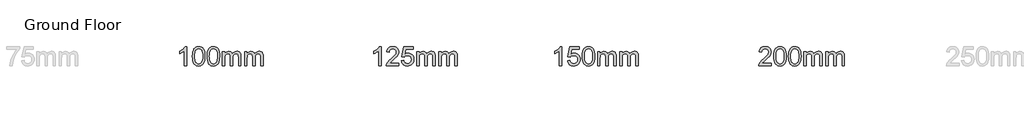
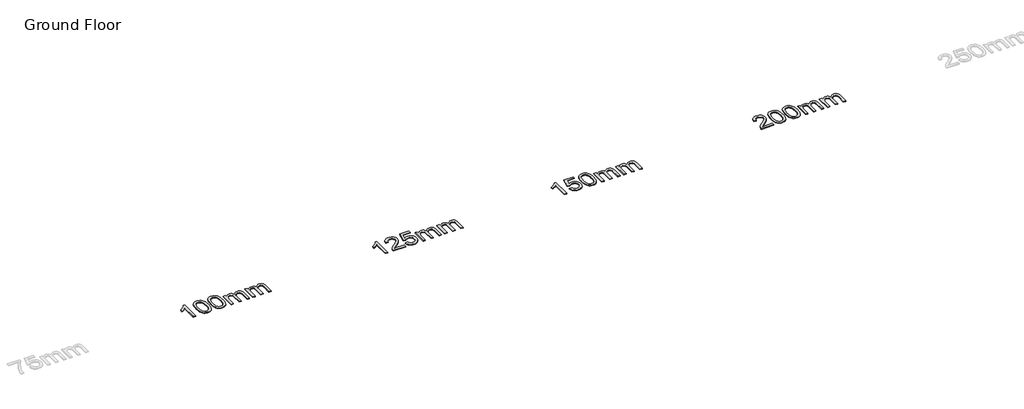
# One storey, part 2 of 3: 4 proxies.
"""IFC4 building model written with IfcOpenShell, lengths in millimetres."""

import ifcopenshell
import ifcopenshell.guid

model = None  # the IFC model being written
_history = None  # IfcOwnerHistory: only IFC2X3 demands one
_inside = {}  # id of a spatial element -> (the spatial element, [elements in it])
_under = {}  # id of a project, library or spatial element -> (it, [spatial elements below it])
_declared = {}  # id of a project -> (the project, [libraries it declares])
_typed = {}  # id of a type object -> (the type object, [elements of that type])
_made_of = {}  # id of a material, layer set ... -> (it, [elements and type objects made of it])


def new_model(schema):
    """Start an empty IFC model of exactly this schema.

    Asked for "IFC4X3", IfcOpenShell would pick the latest addendum, in which some entities
    have other attributes; the version numbers below select the first issue.
    IFC2X3 requires an IfcOwnerHistory on every rooted entity: one is made here for all.
    """
    global model, _history
    if schema == "IFC4X3":
        model = ifcopenshell.file(schema_version=(4, 3, 0, 0))
    else:
        model = ifcopenshell.file(schema=schema)
    _inside.clear()
    _under.clear()
    _declared.clear()
    _typed.clear()
    _made_of.clear()
    _history = None
    if model.schema == "IFC2X3":
        org = make("IfcOrganization", Name="unknown")
        user = make(
            "IfcPersonAndOrganization",
            ThePerson=make("IfcPerson", FamilyName="unknown"),
            TheOrganization=org,
        )
        app = make(
            "IfcApplication",
            ApplicationDeveloper=org,
            Version="unknown",
            ApplicationFullName="unknown",
            ApplicationIdentifier="unknown",
        )
        _history = make(
            "IfcOwnerHistory",
            OwningUser=user,
            OwningApplication=app,
            ChangeAction="ADDED",
            CreationDate=0,
        )
    return model


def make(cls, **values):
    """One entity of the class cls with the attributes given. An attribute that is None is left unset."""
    return model.create_entity(
        cls, **{name: value for name, value in values.items() if value is not None}
    )


def rooted(cls, **values):
    """An entity with a GlobalId (a new one), such as an element, a storey or a relation."""
    return make(cls, GlobalId=ifcopenshell.guid.new(), OwnerHistory=_history, **values)


def si_unit(unit_type, name, prefix=None):
    """IfcSIUnit, for example si_unit("LENGTHUNIT", "METRE", prefix="MILLI")."""
    return make("IfcSIUnit", UnitType=unit_type, Prefix=prefix, Name=name)


def assignment(units):
    """IfcUnitAssignment: the units of a project."""
    return None if units is None else make("IfcUnitAssignment", Units=units)


def point(xyz):
    """IfcCartesianPoint."""
    return None if xyz is None else make("IfcCartesianPoint", Coordinates=xyz)


def direction(xyz):
    """IfcDirection."""
    return None if xyz is None else make("IfcDirection", DirectionRatios=xyz)


def frame(location, z_axis=None, x_axis=None):
    """IfcAxis2Placement3D, a coordinate frame: its origin and axes. An axis left out is left unset."""
    return make(
        "IfcAxis2Placement3D",
        Location=point(location),
        Axis=direction(z_axis),
        RefDirection=direction(x_axis),
    )


def origin():
    """The frame at (0, 0, 0) with its axes left unset."""
    return frame((0.0, 0.0, 0.0))


def origin_with_axes():
    """The frame at (0, 0, 0) with the z axis (0, 0, 1) and the x axis (1, 0, 0) written out."""
    return frame((0.0, 0.0, 0.0), z_axis=(0.0, 0.0, 1.0), x_axis=(1.0, 0.0, 0.0))


def place(relative_to, where):
    """IfcLocalPlacement: puts the frame where relative to a parent placement (None: the world)."""
    return make(
        "IfcLocalPlacement", PlacementRelTo=relative_to, RelativePlacement=where
    )


def context(
    kind, dimensions, precision=None, world=None, true_north=None, identifier=None
):
    """IfcGeometricRepresentationContext, for example the 3D "Model" context."""
    return make(
        "IfcGeometricRepresentationContext",
        ContextIdentifier=identifier,
        ContextType=kind,
        CoordinateSpaceDimension=dimensions,
        Precision=precision,
        WorldCoordinateSystem=world,
        TrueNorth=true_north,
    )


def project(units=None, contexts=None):
    """IfcProject with its units and contexts."""
    return rooted(
        "IfcProject",
        Name="project",
        RepresentationContexts=contexts,
        UnitsInContext=assignment(units),
    )


def spatial(cls, under=None, at=None, **own):
    """A site, building, storey or space (cls), placed at a placement, below another one or the project."""
    s = rooted(cls, ObjectPlacement=at, **own)
    if under is not None:
        _under.setdefault(under.id(), (under, []))[1].append(s)
    return s


def polyline(points):
    """IfcPolyline through the points."""
    return make("IfcPolyline", Points=[point(p) for p in points])


def outline(outer, holes=None, kind="AREA"):
    """IfcArbitraryClosedProfileDef: a profile drawn as a closed curve; with holes, ...WithVoids."""
    if holes is None:
        return make("IfcArbitraryClosedProfileDef", ProfileType=kind, OuterCurve=outer)
    return make(
        "IfcArbitraryProfileDefWithVoids",
        ProfileType=kind,
        OuterCurve=outer,
        InnerCurves=holes,
    )


def extrude(swept, where, along, depth):
    """IfcExtrudedAreaSolid: the profile swept, set in the frame where, extruded along a direction by depth."""
    return make(
        "IfcExtrudedAreaSolid",
        SweptArea=swept,
        Position=where,
        ExtrudedDirection=direction(along),
        Depth=depth,
    )


def shape(context_of_items, identifier, shape_type, items):
    """IfcShapeRepresentation: the items that make up one representation, for example the "Body"."""
    return make(
        "IfcShapeRepresentation",
        ContextOfItems=context_of_items,
        RepresentationIdentifier=identifier,
        RepresentationType=shape_type,
        Items=items,
    )


def made_of(thing, what):
    """Note that an element or type object is made of a material, layer set ...; save() writes the relation."""
    if what is not None:
        _made_of.setdefault(what.id(), (what, []))[1].append(thing)
    return thing


def element(
    cls,
    number,
    at=None,
    inside=None,
    cuts=None,
    type_object=None,
    material=None,
    context=None,
    identifier="Body",
    shape_type=None,
    held_by="IfcProductDefinitionShape",
    body=None,
    shapes=None,
    **own,
):
    """One element of the class cls, such as IfcWall. Its Tag is "e" and its number.

    at: its placement. inside: the storey or other place that contains it. cuts: it is an
    opening in that element (IfcRelVoidsElement). A single representation is given by context,
    identifier, shape_type and body (its items); several are given by shapes. held_by: the class
    of the entity that holds the representations. save() writes the other relations.
    """
    e = rooted(cls, Tag="e%d" % number, ObjectPlacement=at, **own)
    if body is not None:
        shapes = [shape(context, identifier, shape_type, body)]
    if shapes is not None:
        e.Representation = make(held_by, Representations=shapes)
    if inside is not None:
        _inside.setdefault(inside.id(), (inside, []))[1].append(e)
    if cuts is not None:
        rooted(
            "IfcRelVoidsElement", RelatingBuildingElement=cuts, RelatedOpeningElement=e
        )
    if type_object is not None:
        _typed.setdefault(type_object.id(), (type_object, []))[1].append(e)
    return made_of(e, material)


def aggregate(whole, parts):
    """IfcRelAggregates: a whole, such as a stair, and the parts it consists of."""
    return rooted("IfcRelAggregates", RelatingObject=whole, RelatedObjects=parts)


def save(model, path):
    """Write the relations noted so far, then the file.

    IfcRelAggregates (storeys below a building ...), IfcRelContainedInSpatialStructure (elements
    in a storey), IfcRelDefinesByType, IfcRelAssociatesMaterial and IfcRelDeclares: one each for
    every whole, place, type object, material and project.
    """
    for whole, parts in _under.values():
        aggregate(whole, parts)
    for where, things in _inside.values():
        rooted(
            "IfcRelContainedInSpatialStructure",
            RelatedElements=things,
            RelatingStructure=where,
        )
    for kind, things in _typed.values():
        rooted("IfcRelDefinesByType", RelatedObjects=things, RelatingType=kind)
    for what, things in _made_of.values():
        rooted("IfcRelAssociatesMaterial", RelatedObjects=things, RelatingMaterial=what)
    for by, libraries in _declared.values():
        rooted("IfcRelDeclares", RelatingContext=by, RelatedDefinitions=libraries)
    model.write(path)


model = new_model("IFC4")

# Units and contexts
model_context = context("Model", 3, world=origin())
ifc_project = project(units=[si_unit("LENGTHUNIT", "METRE", prefix="MILLI")], contexts=[model_context])

# Site, building, storey
site = spatial("IfcSite", under=ifc_project)
building = spatial("IfcBuilding", under=site)
storey = spatial("IfcBuildingStorey", under=building, Name="Ground Floor", Elevation=0.0)

# Proxies
placement = place(None, origin())
element("IfcBuildingElementProxy", 1, Name="600mm Arial", ObjectType="600mm Arial", at=placement, inside=storey, context=model_context, shape_type="SweptSolid", body=[
    extrude(outline(polyline([(9514.4488498, -2485.58737), (9439.1066172, -2485.58737), (9439.1066172, -2015.8756386), (9407.6527066, -2041.3146785), (9367.7375101, -2066.7169303), (9325.8357509, -2088.9186087), (9288.422152, -2104.7559286), (9288.422152, -2033.5339743), (9347.5959709, -2001.3442998), (9398.8603269, -1963.0477841), (9439.2721641, -1922.3232472), (9465.8884265, -1882.8495091), (9514.4488498, -1882.8495091), (9514.4488498, -2485.58737)])), origin_with_axes(), (0.0, 0.0, 1.0), 20.0),
    extrude(outline(polyline([(10079.5155944, -2410.2451374), (10079.5155944, -2485.58737), (9683.9688732, -2485.58737), (9685.6243422, -2459.0630782), (9692.0622771, -2433.6424323), (9710.6403178, -2393.0466541), (9737.8267973, -2353.6648865), (9777.1533826, -2312.443709), (9832.1517409, -2266.3297009), (9913.4536618, -2194.1144652), (9962.2348144, -2140.8083641), (9976.4626505, -2119.02975), (9986.6253906, -2097.5454415), (9992.7230347, -2076.3554386), (9994.7555827, -2055.4597412), (9992.8379978, -2035.8010471), (9987.0852431, -2017.7334426), (9977.4973186, -2001.2569278), (9964.0742243, -1986.3715026), (9947.5609213, -1974.0428572), (9928.7023705, -1965.2366819), (9907.498572, -1959.9529768), (9883.9495258, -1958.1917417), (9859.1404837, -1959.9115901), (9836.9526009, -1965.071135), (9817.3858773, -1973.6703767), (9800.4403129, -1985.709315), (9786.73211, -2000.7832797), (9776.8774711, -2018.4876007), (9770.876396, -2038.822278), (9768.7288849, -2061.7873116), (9693.3866523, -2052.3695325), (9699.8659739, -2013.4752085), (9711.6519933, -1979.4921092), (9728.7447105, -1950.4202346), (9751.1441255, -1926.2595845), (9778.3352035, -1907.2676765), (9809.8029096, -1893.702028), (9845.547244, -1885.5626388), (9885.5682066, -1882.8495091), (9925.9478541, -1885.8661415), (9961.8853265, -1894.9160386), (9993.3806238, -1909.9992004), (10020.433746, -1931.1156269), (10042.1617763, -1956.7018196), (10057.681798, -1985.1942802), (10066.993811, -2016.5930085), (10070.0978153, -2050.8980045), (10066.7500892, -2086.9320459), (10056.7069107, -2122.340688), (10038.883028, -2158.3563353), (10012.1931893, -2196.2113926), (9969.6476366, -2241.4056957), (9904.2566119, -2299.4390805), (9817.5836138, -2371.9118335), (9783.5913175, -2410.2451374), (10079.5155944, -2410.2451374)])), origin_with_axes(), (0.0, 0.0, 1.0), 20.0),
    extrude(outline(polyline([(10154.857827, -2325.4851257), (10230.2000596, -2316.0673466), (10235.8286542, -2340.2877775), (10244.0324227, -2361.2984379), (10254.8113651, -2379.099328), (10268.1654815, -2393.6904476), (10284.0671808, -2405.0534027), (10302.4888717, -2413.1697993), (10323.4305543, -2418.0396372), (10346.8922285, -2419.6629165), (10375.5870241, -2417.4050407), (10400.8973054, -2410.6314135), (10422.8230723, -2399.3420348), (10441.3643249, -2383.5369045), (10456.1071958, -2363.9977721), (10466.6378179, -2341.5063866), (10472.9561912, -2316.0627481), (10475.0623156, -2287.6668566), (10473.0895484, -2260.8298651), (10467.1712468, -2236.9727177), (10457.3074108, -2216.0954144), (10443.4980404, -2198.1979554), (10425.6971504, -2183.8413605), (10403.8587555, -2173.5866499), (10377.9828556, -2167.4338235), (10348.0694509, -2165.3828814), (10311.5203747, -2168.6570312), (10281.9242682, -2178.4794804), (10258.28785, -2193.525854), (10239.6178387, -2212.4717768), (10164.2756061, -2203.0539977), (10230.2000596, -1892.2672882), (10522.151211, -1892.2672882), (10522.151211, -1967.6095208), (10291.121318, -1967.6095208), (10258.8948553, -2133.597877), (10285.4835265, -2114.5415897), (10312.7159912, -2100.9299559), (10340.5922493, -2092.7629756), (10369.112301, -2090.0406488), (10405.8039315, -2093.4159661), (10439.5065208, -2103.541918), (10470.2200689, -2120.4185045), (10497.9445757, -2144.0457257), (10520.8958137, -2172.9796446), (10537.2895551, -2205.7763245), (10547.1258, -2242.4357653), (10550.4045482, -2282.9579671), (10547.4522952, -2321.9902468), (10538.5955362, -2358.3001997), (10523.8342711, -2391.8878258), (10503.1685001, -2422.7531252), (10471.8617423, -2454.3633857), (10435.3310601, -2476.9421431), (10393.5764537, -2490.4893976), (10346.5979229, -2495.0051491), (10307.7173945, -2492.1034798), (10272.5984596, -2483.3984721), (10241.241118, -2468.890126), (10213.6453699, -2448.5784413), (10190.6849348, -2423.4750936), (10173.2335327, -2394.5917585), (10161.2911634, -2361.9284359), (10154.857827, -2325.4851257)])), origin_with_axes(), (0.0, 0.0, 1.0), 20.0),
    extrude(outline(polyline([(10635.1645599, -2485.58737), (10635.1645599, -2042.9517534), (10710.5067925, -2042.9517534), (10710.5067925, -2115.7923885), (10733.1683234, -2082.333521), (10762.3045775, -2056.1219288), (10796.9222732, -2039.180963), (10836.0281293, -2033.5339743), (10877.9298885, -2039.2913276), (10895.7629683, -2046.4880191), (10911.5175147, -2056.5633872), (10936.6070668, -2084.2097192), (10953.0146038, -2121.0898892), (10980.4769947, -2082.7841764), (11011.8021466, -2055.422953), (11046.9900594, -2039.006219), (11086.0407332, -2033.5339743), (11116.2024583, -2035.8102442), (11142.6761664, -2042.6390537), (11165.4618575, -2054.0204029), (11184.5595315, -2069.9542919), (11199.6564889, -2090.6246615), (11210.4400299, -2116.2154528), (11216.9101545, -2146.7266657), (11219.0668627, -2182.1583004), (11219.0668627, -2485.58737), (11143.7246301, -2485.58737), (11143.7246301, -2214.531916), (11141.9771906, -2176.9527702), (11136.7348722, -2151.6240948), (11126.9124229, -2134.2784587), (11111.4245909, -2120.6484308), (11091.5037808, -2111.8192629), (11068.3823974, -2108.8762069), (11047.0314462, -2110.7616022), (11027.5658901, -2116.4177879), (11009.9857292, -2125.844764), (10994.2909636, -2139.0425306), (10981.3829041, -2156.3973637), (10972.1628616, -2178.2955394), (10966.6308361, -2204.7370578), (10964.7868276, -2235.7219189), (10964.7868276, -2485.58737), (10889.444595, -2485.58737), (10889.444595, -2206.1442065), (10885.0851934, -2163.5434714), (10879.6359413, -2146.8232348), (10872.0069884, -2133.1564186), (10861.8948321, -2122.533826), (10848.9959696, -2114.9462599), (10833.3104011, -2110.3937202), (10814.8381264, -2108.8762069), (10785.812237, -2112.9229089), (10759.0672159, -2125.0630147), (10736.9942962, -2145.0022189), (10721.9847108, -2172.4462157), (10713.3762721, -2210.5220022), (10710.5067925, -2262.3565753), (10710.5067925, -2485.58737), (10635.1645599, -2485.58737)])), origin_with_axes(), (0.0, 0.0, 1.0), 20.0),
    extrude(outline(polyline([(11332.0802116, -2485.58737), (11332.0802116, -2042.9517534), (11407.4224442, -2042.9517534), (11407.4224442, -2115.7923885), (11430.0839751, -2082.333521), (11459.2202291, -2056.1219288), (11493.8379249, -2039.180963), (11532.943781, -2033.5339743), (11574.8455402, -2039.2913276), (11592.6786199, -2046.4880191), (11608.4331664, -2056.5633872), (11633.5227184, -2084.2097192), (11649.9302554, -2121.0898892), (11677.3926464, -2082.7841764), (11708.7177983, -2055.422953), (11743.9057111, -2039.006219), (11782.9563849, -2033.5339743), (11813.11811, -2035.8102442), (11839.591818, -2042.6390537), (11862.3775091, -2054.0204029), (11881.4751832, -2069.9542919), (11896.5721406, -2090.6246615), (11907.3556815, -2116.2154528), (11913.8258061, -2146.7266657), (11915.9825143, -2182.1583004), (11915.9825143, -2485.58737), (11840.6402817, -2485.58737), (11840.6402817, -2214.531916), (11838.8928422, -2176.9527702), (11833.6505238, -2151.6240948), (11823.8280745, -2134.2784587), (11808.3402425, -2120.6484308), (11788.4194325, -2111.8192629), (11765.2980491, -2108.8762069), (11743.9470978, -2110.7616022), (11724.4815417, -2116.4177879), (11706.9013809, -2125.844764), (11691.2066153, -2139.0425306), (11678.2985558, -2156.3973637), (11669.0785133, -2178.2955394), (11663.5464878, -2204.7370578), (11661.7024793, -2235.7219189), (11661.7024793, -2485.58737), (11586.3602467, -2485.58737), (11586.3602467, -2206.1442065), (11582.000845, -2163.5434714), (11576.551593, -2146.8232348), (11568.9226401, -2133.1564186), (11558.8104837, -2122.533826), (11545.9116213, -2114.9462599), (11530.2260527, -2110.3937202), (11511.753778, -2108.8762069), (11482.7278886, -2112.9229089), (11455.9828676, -2125.0630147), (11433.9099479, -2145.0022189), (11418.9003625, -2172.4462157), (11410.2919238, -2210.5220022), (11407.4224442, -2262.3565753), (11407.4224442, -2485.58737), (11332.0802116, -2485.58737)])), origin_with_axes(), (0.0, 0.0, 1.0), 20.0),
])
element("IfcBuildingElementProxy", 2, Name="600mm Arial", ObjectType="600mm Arial", at=placement, inside=storey, context=model_context, shape_type="SweptSolid", body=[
    extrude(outline(polyline([(15201.7887855, -2485.58737), (15126.4465529, -2485.58737), (15126.4465529, -2015.8756386), (15094.9926423, -2041.3146785), (15055.0774458, -2066.7169303), (15013.1756866, -2088.9186087), (14975.7620877, -2104.7559286), (14975.7620877, -2033.5339743), (15034.9359066, -2001.3442998), (15086.2002626, -1963.0477841), (15126.6120998, -1922.3232472), (15153.2283621, -1882.8495091), (15201.7887855, -1882.8495091), (15201.7887855, -2485.58737)])), origin_with_axes(), (0.0, 0.0, 1.0), 20.0),
    extrude(outline(polyline([(15380.726588, -2325.4851257), (15456.0688206, -2316.0673466), (15461.6974151, -2340.2877775), (15469.9011836, -2361.2984379), (15480.680126, -2379.099328), (15494.0342425, -2393.6904476), (15509.9359417, -2405.0534027), (15528.3576326, -2413.1697993), (15549.2993152, -2418.0396372), (15572.7609894, -2419.6629165), (15601.4557851, -2417.4050407), (15626.7660663, -2410.6314135), (15648.6918332, -2399.3420348), (15667.2330858, -2383.5369045), (15681.9759568, -2363.9977721), (15692.5065789, -2341.5063866), (15698.8249521, -2316.0627481), (15700.9310766, -2287.6668566), (15698.9583094, -2260.8298651), (15693.0400078, -2236.9727177), (15683.1761718, -2216.0954144), (15669.3668014, -2198.1979554), (15651.5659113, -2183.8413605), (15629.7275164, -2173.5866499), (15603.8516166, -2167.4338235), (15573.9382118, -2165.3828814), (15537.3891356, -2168.6570312), (15507.7930291, -2178.4794804), (15484.1566109, -2193.525854), (15465.4865996, -2212.4717768), (15390.144367, -2203.0539977), (15456.0688206, -1892.2672882), (15748.0199719, -1892.2672882), (15748.0199719, -1967.6095208), (15516.990079, -1967.6095208), (15484.7636162, -2133.597877), (15511.3522874, -2114.5415897), (15538.5847521, -2100.9299559), (15566.4610103, -2092.7629756), (15594.981062, -2090.0406488), (15631.6726924, -2093.4159661), (15665.3752817, -2103.541918), (15696.0888298, -2120.4185045), (15723.8133367, -2144.0457257), (15746.7645746, -2172.9796446), (15763.158316, -2205.7763245), (15772.9945609, -2242.4357653), (15776.2733092, -2282.9579671), (15773.3210562, -2321.9902468), (15764.4642971, -2358.3001997), (15749.7030321, -2391.8878258), (15729.037261, -2422.7531252), (15697.7305032, -2454.3633857), (15661.1998211, -2476.9421431), (15619.4452146, -2490.4893976), (15572.4666838, -2495.0051491), (15533.5861555, -2492.1034798), (15498.4672205, -2483.3984721), (15467.109879, -2468.890126), (15439.5141308, -2448.5784413), (15416.5536958, -2423.4750936), (15399.1022936, -2394.5917585), (15387.1599243, -2361.9284359), (15380.726588, -2325.4851257)])), origin_with_axes(), (0.0, 0.0, 1.0), 20.0),
    extrude(outline(polyline([(15842.1977627, -2189.0744819), (15847.7343867, -2092.5974287), (15854.6551668, -2051.6843523), (15864.3442588, -2015.6549094), (15876.7602762, -1984.2147944), (15891.8618321, -1957.0697016), (15909.6489265, -1934.2196312), (15930.1215596, -1915.6645831), (15953.348709, -1901.3079882), (15979.3993528, -1891.0532776), (16008.2734909, -1884.9004512), (16039.9711233, -1882.8495091), (16086.3978311, -1887.7055514), (16127.9684966, -1902.2736785), (16162.7333451, -1925.983673), (16188.7426022, -1958.2653181), (16208.3875007, -1998.8427022), (16224.0592737, -2047.4399138), (16234.3231814, -2109.1521184), (16237.7444839, -2189.0744819), (16232.2630422, -2284.9997121), (16225.41124, -2325.7748328), (16215.818717, -2361.7582904), (16203.4992687, -2393.212201), (16188.4666907, -2420.3986805), (16170.7209829, -2443.3177288), (16150.2621455, -2461.9693459), (16127.0074049, -2476.4225098), (16100.8739876, -2486.7461983), (16071.8618938, -2492.9404114), (16039.9711233, -2495.0051491), (15998.4740343, -2491.4182996), (15961.6858347, -2480.6577513), (15929.6065248, -2462.723504), (15902.2361043, -2437.6155578), (15875.9693299, -2392.2281167), (15857.2073481, -2335.675457), (15845.9501591, -2267.9575787), (15842.1977627, -2189.0744819)]), holes=[polyline([(15917.5399953, -2188.9273291), (15919.7472873, -2254.4241198), (15926.3691632, -2307.4405138), (15937.4056231, -2347.9765112), (15952.8566669, -2376.0321118), (15971.5450722, -2395.1205889), (15992.2936167, -2408.7552153), (16015.1023004, -2416.9359912), (16039.9711233, -2419.6629165), (16064.8399462, -2416.9267941), (16087.6486299, -2408.7184271), (16108.3971744, -2395.0378154), (16127.0855798, -2375.884959), (16142.5366236, -2347.7833731), (16153.5730834, -2307.2565728), (16160.1949593, -2254.3045582), (16162.4022513, -2188.9273291), (16160.2685357, -2125.1641823), (16153.867389, -2073.0812888), (16143.1988112, -2032.6786487), (16128.2628022, -2003.9562619), (16109.8870965, -1983.9342843), (16088.8994287, -1969.6328718), (16065.2997987, -1961.0520242), (16039.0882065, -1958.1917417), (16014.3481424, -1960.7117334), (15991.9257347, -1968.2717084), (15971.8209837, -1980.8716667), (15954.0338892, -1998.5116084), (15938.0678107, -2029.781578), (15926.6634688, -2071.9408546), (15919.8208637, -2124.9894383), (15917.5399953, -2188.9273291)])]), origin_with_axes(), (0.0, 0.0, 1.0), 20.0),
    extrude(outline(polyline([(16322.5044956, -2485.58737), (16322.5044956, -2042.9517534), (16397.8467282, -2042.9517534), (16397.8467282, -2115.7923885), (16420.5082591, -2082.333521), (16449.6445131, -2056.1219288), (16484.2622089, -2039.180963), (16523.368065, -2033.5339743), (16565.2698242, -2039.2913276), (16583.1029039, -2046.4880191), (16598.8574504, -2056.5633872), (16623.9470025, -2084.2097192), (16640.3545394, -2121.0898892), (16667.8169304, -2082.7841764), (16699.1420823, -2055.422953), (16734.3299951, -2039.006219), (16773.3806689, -2033.5339743), (16803.542394, -2035.8102442), (16830.0161021, -2042.6390537), (16852.8017931, -2054.0204029), (16871.8994672, -2069.9542919), (16886.9964246, -2090.6246615), (16897.7799656, -2116.2154528), (16904.2500902, -2146.7266657), (16906.4067984, -2182.1583004), (16906.4067984, -2485.58737), (16831.0645657, -2485.58737), (16831.0645657, -2214.531916), (16829.3171263, -2176.9527702), (16824.0748078, -2151.6240948), (16814.2523586, -2134.2784587), (16798.7645266, -2120.6484308), (16778.8437165, -2111.8192629), (16755.7223331, -2108.8762069), (16734.3713818, -2110.7616022), (16714.9058258, -2116.4177879), (16697.3256649, -2125.844764), (16681.6308993, -2139.0425306), (16668.7228398, -2156.3973637), (16659.5027973, -2178.2955394), (16653.9707718, -2204.7370578), (16652.1267633, -2235.7219189), (16652.1267633, -2485.58737), (16576.7845307, -2485.58737), (16576.7845307, -2206.1442065), (16572.425129, -2163.5434714), (16566.975877, -2146.8232348), (16559.3469241, -2133.1564186), (16549.2347678, -2122.533826), (16536.3359053, -2114.9462599), (16520.6503367, -2110.3937202), (16502.1780621, -2108.8762069), (16473.1521726, -2112.9229089), (16446.4071516, -2125.0630147), (16424.3342319, -2145.0022189), (16409.3246465, -2172.4462157), (16400.7162078, -2210.5220022), (16397.8467282, -2262.3565753), (16397.8467282, -2485.58737), (16322.5044956, -2485.58737)])), origin_with_axes(), (0.0, 0.0, 1.0), 20.0),
    extrude(outline(polyline([(17019.4201473, -2485.58737), (17019.4201473, -2042.9517534), (17094.7623799, -2042.9517534), (17094.7623799, -2115.7923885), (17117.4239108, -2082.333521), (17146.5601648, -2056.1219288), (17181.1778606, -2039.180963), (17220.2837166, -2033.5339743), (17262.1854759, -2039.2913276), (17280.0185556, -2046.4880191), (17295.7731021, -2056.5633872), (17320.8626541, -2084.2097192), (17337.2701911, -2121.0898892), (17364.732582, -2082.7841764), (17396.0577339, -2055.422953), (17431.2456468, -2039.006219), (17470.2963206, -2033.5339743), (17500.4580456, -2035.8102442), (17526.9317537, -2042.6390537), (17549.7174448, -2054.0204029), (17568.8151189, -2069.9542919), (17583.9120762, -2090.6246615), (17594.6956172, -2116.2154528), (17601.1657418, -2146.7266657), (17603.32245, -2182.1583004), (17603.32245, -2485.58737), (17527.9802174, -2485.58737), (17527.9802174, -2214.531916), (17526.2327779, -2176.9527702), (17520.9904595, -2151.6240948), (17511.1680102, -2134.2784587), (17495.6801782, -2120.6484308), (17475.7593682, -2111.8192629), (17452.6379848, -2108.8762069), (17431.2870335, -2110.7616022), (17411.8214774, -2116.4177879), (17394.2413166, -2125.844764), (17378.546551, -2139.0425306), (17365.6384915, -2156.3973637), (17356.418449, -2178.2955394), (17350.8864235, -2204.7370578), (17349.042415, -2235.7219189), (17349.042415, -2485.58737), (17273.7001823, -2485.58737), (17273.7001823, -2206.1442065), (17269.3407807, -2163.5434714), (17263.8915286, -2146.8232348), (17256.2625758, -2133.1564186), (17246.1504194, -2122.533826), (17233.251557, -2114.9462599), (17217.5659884, -2110.3937202), (17199.0937137, -2108.8762069), (17170.0678243, -2112.9229089), (17143.3228033, -2125.0630147), (17121.2498835, -2145.0022189), (17106.2402981, -2172.4462157), (17097.6318594, -2210.5220022), (17094.7623799, -2262.3565753), (17094.7623799, -2485.58737), (17019.4201473, -2485.58737)])), origin_with_axes(), (0.0, 0.0, 1.0), 20.0),
])
element("IfcBuildingElementProxy", 3, Name="600mm Arial", ObjectType="600mm Arial", at=placement, inside=storey, context=model_context, shape_type="SweptSolid", body=[
    extrude(outline(polyline([(3406.1216398, -2485.58737), (3330.7794071, -2485.58737), (3330.7794071, -2015.8756386), (3299.3254966, -2041.3146785), (3259.4103001, -2066.7169303), (3217.5085408, -2088.9186087), (3180.0949419, -2104.7559286), (3180.0949419, -2033.5339743), (3239.2687608, -2001.3442998), (3290.5331169, -1963.0477841), (3330.944954, -1922.3232472), (3357.5612164, -1882.8495091), (3406.1216398, -1882.8495091), (3406.1216398, -2485.58737)])), origin_with_axes(), (0.0, 0.0, 1.0), 20.0),
    extrude(outline(polyline([(3585.0594422, -2189.0744819), (3590.5960662, -2092.5974287), (3597.5168463, -2051.6843523), (3607.2059383, -2015.6549094), (3619.6219557, -1984.2147944), (3634.7235116, -1957.0697016), (3652.510606, -1934.2196312), (3672.9832391, -1915.6645831), (3696.2103885, -1901.3079882), (3722.2610323, -1891.0532776), (3751.1351704, -1884.9004512), (3782.8328028, -1882.8495091), (3829.2595106, -1887.7055514), (3870.8301761, -1902.2736785), (3905.5950246, -1925.983673), (3931.6042817, -1958.2653181), (3951.2491802, -1998.8427022), (3966.9209532, -2047.4399138), (3977.1848609, -2109.1521184), (3980.6061634, -2189.0744819), (3975.1247217, -2284.9997121), (3968.2729195, -2325.7748328), (3958.6803965, -2361.7582904), (3946.3609482, -2393.212201), (3931.3283702, -2420.3986805), (3913.5826624, -2443.3177288), (3893.123825, -2461.9693459), (3869.8690843, -2476.4225098), (3843.7356671, -2486.7461983), (3814.7235733, -2492.9404114), (3782.8328028, -2495.0051491), (3741.3357138, -2491.4182996), (3704.5475142, -2480.6577513), (3672.4682043, -2462.723504), (3645.0977838, -2437.6155578), (3618.8310094, -2392.2281167), (3600.0690276, -2335.675457), (3588.8118386, -2267.9575787), (3585.0594422, -2189.0744819)]), holes=[polyline([(3660.4016748, -2188.9273291), (3662.6089668, -2254.4241198), (3669.2308427, -2307.4405138), (3680.2673026, -2347.9765112), (3695.7183464, -2376.0321118), (3714.4067517, -2395.1205889), (3735.1552962, -2408.7552153), (3757.9639799, -2416.9359912), (3782.8328028, -2419.6629165), (3807.7016257, -2416.9267941), (3830.5103094, -2408.7184271), (3851.2588539, -2395.0378154), (3869.9472593, -2375.884959), (3885.3983031, -2347.7833731), (3896.4347629, -2307.2565728), (3903.0566388, -2254.3045582), (3905.2639308, -2188.9273291), (3903.1302152, -2125.1641823), (3896.7290685, -2073.0812888), (3886.0604907, -2032.6786487), (3871.1244817, -2003.9562619), (3852.748776, -1983.9342843), (3831.7611082, -1969.6328718), (3808.1614782, -1961.0520242), (3781.949886, -1958.1917417), (3757.2098218, -1960.7117334), (3734.7874142, -1968.2717084), (3714.6826632, -1980.8716667), (3696.8955687, -1998.5116084), (3680.9294901, -2029.781578), (3669.5251483, -2071.9408546), (3662.6825432, -2124.9894383), (3660.4016748, -2188.9273291)])]), origin_with_axes(), (0.0, 0.0, 1.0), 20.0),
    extrude(outline(polyline([(4046.530617, -2189.0744819), (4052.067241, -2092.5974287), (4058.988021, -2051.6843523), (4068.6771131, -2015.6549094), (4081.0931304, -1984.2147944), (4096.1946863, -1957.0697016), (4113.9817808, -1934.2196312), (4134.4544138, -1915.6645831), (4157.6815633, -1901.3079882), (4183.7322071, -1891.0532776), (4212.6063452, -1884.9004512), (4244.3039776, -1882.8495091), (4290.7306854, -1887.7055514), (4332.3013508, -1902.2736785), (4367.0661994, -1925.983673), (4393.0754564, -1958.2653181), (4412.720355, -1998.8427022), (4428.392128, -2047.4399138), (4438.6560356, -2109.1521184), (4442.0773382, -2189.0744819), (4436.5958964, -2284.9997121), (4429.7440943, -2325.7748328), (4420.1515713, -2361.7582904), (4407.8321229, -2393.212201), (4392.7995449, -2420.3986805), (4375.0538372, -2443.3177288), (4354.5949997, -2461.9693459), (4331.3402591, -2476.4225098), (4305.2068419, -2486.7461983), (4276.194748, -2492.9404114), (4244.3039776, -2495.0051491), (4202.8068885, -2491.4182996), (4166.018689, -2480.6577513), (4133.939379, -2462.723504), (4106.5689586, -2437.6155578), (4080.3021841, -2392.2281167), (4061.5402024, -2335.675457), (4050.2830133, -2267.9575787), (4046.530617, -2189.0744819)]), holes=[polyline([(4121.8728496, -2188.9273291), (4124.0801415, -2254.4241198), (4130.7020175, -2307.4405138), (4141.7384773, -2347.9765112), (4157.1895211, -2376.0321118), (4175.8779265, -2395.1205889), (4196.626471, -2408.7552153), (4219.4351547, -2416.9359912), (4244.3039776, -2419.6629165), (4269.1728004, -2416.9267941), (4291.9814841, -2408.7184271), (4312.7300287, -2395.0378154), (4331.418434, -2375.884959), (4346.8694778, -2347.7833731), (4357.9059377, -2307.2565728), (4364.5278136, -2254.3045582), (4366.7351056, -2188.9273291), (4364.60139, -2125.1641823), (4358.2002433, -2073.0812888), (4347.5316654, -2032.6786487), (4332.5956564, -2003.9562619), (4314.2199507, -1983.9342843), (4293.2322829, -1969.6328718), (4269.6326529, -1961.0520242), (4243.4210608, -1958.1917417), (4218.6809966, -1960.7117334), (4196.258589, -1968.2717084), (4176.153838, -1980.8716667), (4158.3667435, -1998.5116084), (4142.4006649, -2029.781578), (4130.996323, -2071.9408546), (4124.1537179, -2124.9894383), (4121.8728496, -2188.9273291)])]), origin_with_axes(), (0.0, 0.0, 1.0), 20.0),
    extrude(outline(polyline([(4526.8373499, -2485.58737), (4526.8373499, -2042.9517534), (4602.1795825, -2042.9517534), (4602.1795825, -2115.7923885), (4624.8411134, -2082.333521), (4653.9773674, -2056.1219288), (4688.5950631, -2039.180963), (4727.7009192, -2033.5339743), (4769.6026785, -2039.2913276), (4787.4357582, -2046.4880191), (4803.1903046, -2056.5633872), (4828.2798567, -2084.2097192), (4844.6873937, -2121.0898892), (4872.1497846, -2082.7841764), (4903.4749365, -2055.422953), (4938.6628494, -2039.006219), (4977.7135231, -2033.5339743), (5007.8752482, -2035.8102442), (5034.3489563, -2042.6390537), (5057.1346474, -2054.0204029), (5076.2323215, -2069.9542919), (5091.3292788, -2090.6246615), (5102.1128198, -2116.2154528), (5108.5829444, -2146.7266657), (5110.7396526, -2182.1583004), (5110.7396526, -2485.58737), (5035.39742, -2485.58737), (5035.39742, -2214.531916), (5033.6499805, -2176.9527702), (5028.4076621, -2151.6240948), (5018.5852128, -2134.2784587), (5003.0973808, -2120.6484308), (4983.1765708, -2111.8192629), (4960.0551874, -2108.8762069), (4938.7042361, -2110.7616022), (4919.23868, -2116.4177879), (4901.6585192, -2125.844764), (4885.9637536, -2139.0425306), (4873.055694, -2156.3973637), (4863.8356515, -2178.2955394), (4858.303626, -2204.7370578), (4856.4596175, -2235.7219189), (4856.4596175, -2485.58737), (4781.1173849, -2485.58737), (4781.1173849, -2206.1442065), (4776.7579833, -2163.5434714), (4771.3087312, -2146.8232348), (4763.6797784, -2133.1564186), (4753.567622, -2122.533826), (4740.6687596, -2114.9462599), (4724.983191, -2110.3937202), (4706.5109163, -2108.8762069), (4677.4850269, -2112.9229089), (4650.7400058, -2125.0630147), (4628.6670861, -2145.0022189), (4613.6575007, -2172.4462157), (4605.049062, -2210.5220022), (4602.1795825, -2262.3565753), (4602.1795825, -2485.58737), (4526.8373499, -2485.58737)])), origin_with_axes(), (0.0, 0.0, 1.0), 20.0),
    extrude(outline(polyline([(5223.7530015, -2485.58737), (5223.7530015, -2042.9517534), (5299.0952341, -2042.9517534), (5299.0952341, -2115.7923885), (5321.756765, -2082.333521), (5350.8930191, -2056.1219288), (5385.5107148, -2039.180963), (5424.6165709, -2033.5339743), (5466.5183301, -2039.2913276), (5484.3514099, -2046.4880191), (5500.1059563, -2056.5633872), (5525.1955084, -2084.2097192), (5541.6030454, -2121.0898892), (5569.0654363, -2082.7841764), (5600.3905882, -2055.422953), (5635.578501, -2039.006219), (5674.6291748, -2033.5339743), (5704.7908999, -2035.8102442), (5731.264608, -2042.6390537), (5754.050299, -2054.0204029), (5773.1479731, -2069.9542919), (5788.2449305, -2090.6246615), (5799.0284715, -2116.2154528), (5805.4985961, -2146.7266657), (5807.6553043, -2182.1583004), (5807.6553043, -2485.58737), (5732.3130717, -2485.58737), (5732.3130717, -2214.531916), (5730.5656322, -2176.9527702), (5725.3233137, -2151.6240948), (5715.5008645, -2134.2784587), (5700.0130325, -2120.6484308), (5680.0922224, -2111.8192629), (5656.970839, -2108.8762069), (5635.6198877, -2110.7616022), (5616.1543317, -2116.4177879), (5598.5741708, -2125.844764), (5582.8794052, -2139.0425306), (5569.9713457, -2156.3973637), (5560.7513032, -2178.2955394), (5555.2192777, -2204.7370578), (5553.3752692, -2235.7219189), (5553.3752692, -2485.58737), (5478.0330366, -2485.58737), (5478.0330366, -2206.1442065), (5473.6736349, -2163.5434714), (5468.2243829, -2146.8232348), (5460.59543, -2133.1564186), (5450.4832737, -2122.533826), (5437.5844112, -2114.9462599), (5421.8988426, -2110.3937202), (5403.426568, -2108.8762069), (5374.4006785, -2112.9229089), (5347.6556575, -2125.0630147), (5325.5827378, -2145.0022189), (5310.5731524, -2172.4462157), (5301.9647137, -2210.5220022), (5299.0952341, -2262.3565753), (5299.0952341, -2485.58737), (5223.7530015, -2485.58737)])), origin_with_axes(), (0.0, 0.0, 1.0), 20.0),
])
element("IfcBuildingElementProxy", 4, Name="600mm Arial", ObjectType="600mm Arial", at=placement, inside=storey, context=model_context, shape_type="SweptSolid", body=[
    extrude(outline(polyline([(21788.1049644, -2410.2451374), (21788.1049644, -2485.58737), (21392.5582432, -2485.58737), (21394.2137121, -2459.0630782), (21400.6516471, -2433.6424323), (21419.2296878, -2393.0466541), (21446.4161673, -2353.6648865), (21485.7427525, -2312.443709), (21540.7411108, -2266.3297009), (21622.0430318, -2194.1144652), (21670.8241843, -2140.8083641), (21685.0520205, -2119.02975), (21695.2147606, -2097.5454415), (21701.3124047, -2076.3554386), (21703.3449527, -2055.4597412), (21701.4273678, -2035.8010471), (21695.6746131, -2017.7334426), (21686.0866886, -2001.2569278), (21672.6635943, -1986.3715026), (21656.1502912, -1974.0428572), (21637.2917405, -1965.2366819), (21616.087942, -1959.9529768), (21592.5388957, -1958.1917417), (21567.7298537, -1959.9115901), (21545.5419709, -1965.071135), (21525.9752472, -1973.6703767), (21509.0296828, -1985.709315), (21495.32148, -2000.7832797), (21485.466841, -2018.4876007), (21479.465766, -2038.822278), (21477.3182549, -2061.7873116), (21401.9760222, -2052.3695325), (21408.4553439, -2013.4752085), (21420.2413633, -1979.4921092), (21437.3340805, -1950.4202346), (21459.7334955, -1926.2595845), (21486.9245735, -1907.2676765), (21518.3922796, -1893.702028), (21554.136614, -1885.5626388), (21594.1575765, -1882.8495091), (21634.537224, -1885.8661415), (21670.4746964, -1894.9160386), (21701.9699937, -1909.9992004), (21729.023116, -1931.1156269), (21750.7511463, -1956.7018196), (21766.271168, -1985.1942802), (21775.583181, -2016.5930085), (21778.6871853, -2050.8980045), (21775.3394591, -2086.9320459), (21765.2962807, -2122.340688), (21747.472398, -2158.3563353), (21720.7825593, -2196.2113926), (21678.2370065, -2241.4056957), (21612.8459819, -2299.4390805), (21526.1729838, -2371.9118335), (21492.1806875, -2410.2451374), (21788.1049644, -2410.2451374)])), origin_with_axes(), (0.0, 0.0, 1.0), 20.0),
    extrude(outline(polyline([(21863.447197, -2189.0744819), (21868.983821, -2092.5974287), (21875.9046011, -2051.6843523), (21885.5936931, -2015.6549094), (21898.0097104, -1984.2147944), (21913.1112663, -1957.0697016), (21930.8983608, -1934.2196312), (21951.3709938, -1915.6645831), (21974.5981433, -1901.3079882), (22000.6487871, -1891.0532776), (22029.5229252, -1884.9004512), (22061.2205576, -1882.8495091), (22107.6472654, -1887.7055514), (22149.2179308, -1902.2736785), (22183.9827794, -1925.983673), (22209.9920365, -1958.2653181), (22229.636935, -1998.8427022), (22245.308708, -2047.4399138), (22255.5726157, -2109.1521184), (22258.9939182, -2189.0744819), (22253.5124765, -2284.9997121), (22246.6606743, -2325.7748328), (22237.0681513, -2361.7582904), (22224.748703, -2393.212201), (22209.716125, -2420.3986805), (22191.9704172, -2443.3177288), (22171.5115798, -2461.9693459), (22148.2568391, -2476.4225098), (22122.1234219, -2486.7461983), (22093.1113281, -2492.9404114), (22061.2205576, -2495.0051491), (22019.7234685, -2491.4182996), (21982.935269, -2480.6577513), (21950.855959, -2462.723504), (21923.4855386, -2437.6155578), (21897.2187642, -2392.2281167), (21878.4567824, -2335.675457), (21867.1995933, -2267.9575787), (21863.447197, -2189.0744819)]), holes=[polyline([(21938.7894296, -2188.9273291), (21940.9967216, -2254.4241198), (21947.6185975, -2307.4405138), (21958.6550573, -2347.9765112), (21974.1061011, -2376.0321118), (21992.7945065, -2395.1205889), (22013.543051, -2408.7552153), (22036.3517347, -2416.9359912), (22061.2205576, -2419.6629165), (22086.0893805, -2416.9267941), (22108.8980642, -2408.7184271), (22129.6466087, -2395.0378154), (22148.3350141, -2375.884959), (22163.7860579, -2347.7833731), (22174.8225177, -2307.2565728), (22181.4443936, -2254.3045582), (22183.6516856, -2188.9273291), (22181.51797, -2125.1641823), (22175.1168233, -2073.0812888), (22164.4482454, -2032.6786487), (22149.5122364, -2003.9562619), (22131.1365308, -1983.9342843), (22110.148863, -1969.6328718), (22086.549233, -1961.0520242), (22060.3376408, -1958.1917417), (22035.5975766, -1960.7117334), (22013.175169, -1968.2717084), (21993.070418, -1980.8716667), (21975.2833235, -1998.5116084), (21959.3172449, -2029.781578), (21947.9129031, -2071.9408546), (21941.070298, -2124.9894383), (21938.7894296, -2188.9273291)])]), origin_with_axes(), (0.0, 0.0, 1.0), 20.0),
    extrude(outline(polyline([(22324.9183717, -2189.0744819), (22330.4549958, -2092.5974287), (22337.3757758, -2051.6843523), (22347.0648679, -2015.6549094), (22359.4808852, -1984.2147944), (22374.5824411, -1957.0697016), (22392.3695356, -1934.2196312), (22412.8421686, -1915.6645831), (22436.0693181, -1901.3079882), (22462.1199618, -1891.0532776), (22490.9940999, -1884.9004512), (22522.6917324, -1882.8495091), (22569.1184401, -1887.7055514), (22610.6891056, -1902.2736785), (22645.4539541, -1925.983673), (22671.4632112, -1958.2653181), (22691.1081097, -1998.8427022), (22706.7798827, -2047.4399138), (22717.0437904, -2109.1521184), (22720.465093, -2189.0744819), (22714.9836512, -2284.9997121), (22708.1318491, -2325.7748328), (22698.539326, -2361.7582904), (22686.2198777, -2393.212201), (22671.1872997, -2420.3986805), (22653.441592, -2443.3177288), (22632.9827545, -2461.9693459), (22609.7280139, -2476.4225098), (22583.5945967, -2486.7461983), (22554.5825028, -2492.9404114), (22522.6917324, -2495.0051491), (22481.1946433, -2491.4182996), (22444.4064438, -2480.6577513), (22412.3271338, -2462.723504), (22384.9567134, -2437.6155578), (22358.6899389, -2392.2281167), (22339.9279571, -2335.675457), (22328.6707681, -2267.9575787), (22324.9183717, -2189.0744819)]), holes=[polyline([(22400.2606044, -2188.9273291), (22402.4678963, -2254.4241198), (22409.0897722, -2307.4405138), (22420.1262321, -2347.9765112), (22435.5772759, -2376.0321118), (22454.2656812, -2395.1205889), (22475.0142258, -2408.7552153), (22497.8229095, -2416.9359912), (22522.6917324, -2419.6629165), (22547.5605552, -2416.9267941), (22570.3692389, -2408.7184271), (22591.1177835, -2395.0378154), (22609.8061888, -2375.884959), (22625.2572326, -2347.7833731), (22636.2936925, -2307.2565728), (22642.9155684, -2254.3045582), (22645.1228603, -2188.9273291), (22642.9891448, -2125.1641823), (22636.5879981, -2073.0812888), (22625.9194202, -2032.6786487), (22610.9834112, -2003.9562619), (22592.6077055, -1983.9342843), (22571.6200377, -1969.6328718), (22548.0204077, -1961.0520242), (22521.8088156, -1958.1917417), (22497.0687514, -1960.7117334), (22474.6463438, -1968.2717084), (22454.5415927, -1980.8716667), (22436.7544983, -1998.5116084), (22420.7884197, -2029.781578), (22409.3840778, -2071.9408546), (22402.5414727, -2124.9894383), (22400.2606044, -2188.9273291)])]), origin_with_axes(), (0.0, 0.0, 1.0), 20.0),
    extrude(outline(polyline([(22805.2251046, -2485.58737), (22805.2251046, -2042.9517534), (22880.5673373, -2042.9517534), (22880.5673373, -2115.7923885), (22903.2288682, -2082.333521), (22932.3651222, -2056.1219288), (22966.9828179, -2039.180963), (23006.088674, -2033.5339743), (23047.9904333, -2039.2913276), (23065.823513, -2046.4880191), (23081.5780594, -2056.5633872), (23106.6676115, -2084.2097192), (23123.0751485, -2121.0898892), (23150.5375394, -2082.7841764), (23181.8626913, -2055.422953), (23217.0506041, -2039.006219), (23256.1012779, -2033.5339743), (23286.263003, -2035.8102442), (23312.7367111, -2042.6390537), (23335.5224022, -2054.0204029), (23354.6200762, -2069.9542919), (23369.7170336, -2090.6246615), (23380.5005746, -2116.2154528), (23386.9706992, -2146.7266657), (23389.1274074, -2182.1583004), (23389.1274074, -2485.58737), (23313.7851748, -2485.58737), (23313.7851748, -2214.531916), (23312.0377353, -2176.9527702), (23306.7954169, -2151.6240948), (23296.9729676, -2134.2784587), (23281.4851356, -2120.6484308), (23261.5643256, -2111.8192629), (23238.4429422, -2108.8762069), (23217.0919909, -2110.7616022), (23197.6264348, -2116.4177879), (23180.046274, -2125.844764), (23164.3515083, -2139.0425306), (23151.4434488, -2156.3973637), (23142.2234063, -2178.2955394), (23136.6913808, -2204.7370578), (23134.8473723, -2235.7219189), (23134.8473723, -2485.58737), (23059.5051397, -2485.58737), (23059.5051397, -2206.1442065), (23055.1457381, -2163.5434714), (23049.696486, -2146.8232348), (23042.0675331, -2133.1564186), (23031.9553768, -2122.533826), (23019.0565143, -2114.9462599), (23003.3709458, -2110.3937202), (22984.8986711, -2108.8762069), (22955.8727817, -2112.9229089), (22929.1277606, -2125.0630147), (22907.0548409, -2145.0022189), (22892.0452555, -2172.4462157), (22883.4368168, -2210.5220022), (22880.5673373, -2262.3565753), (22880.5673373, -2485.58737), (22805.2251046, -2485.58737)])), origin_with_axes(), (0.0, 0.0, 1.0), 20.0),
    extrude(outline(polyline([(23502.1407563, -2485.58737), (23502.1407563, -2042.9517534), (23577.4829889, -2042.9517534), (23577.4829889, -2115.7923885), (23600.1445198, -2082.333521), (23629.2807738, -2056.1219288), (23663.8984696, -2039.180963), (23703.0043257, -2033.5339743), (23744.9060849, -2039.2913276), (23762.7391646, -2046.4880191), (23778.4937111, -2056.5633872), (23803.5832632, -2084.2097192), (23819.9908001, -2121.0898892), (23847.4531911, -2082.7841764), (23878.778343, -2055.422953), (23913.9662558, -2039.006219), (23953.0169296, -2033.5339743), (23983.1786547, -2035.8102442), (24009.6523628, -2042.6390537), (24032.4380538, -2054.0204029), (24051.5357279, -2069.9542919), (24066.6326853, -2090.6246615), (24077.4162263, -2116.2154528), (24083.8863509, -2146.7266657), (24086.0430591, -2182.1583004), (24086.0430591, -2485.58737), (24010.7008264, -2485.58737), (24010.7008264, -2214.531916), (24008.953387, -2176.9527702), (24003.7110685, -2151.6240948), (23993.8886193, -2134.2784587), (23978.4007873, -2120.6484308), (23958.4799772, -2111.8192629), (23935.3585938, -2108.8762069), (23914.0076425, -2110.7616022), (23894.5420865, -2116.4177879), (23876.9619256, -2125.844764), (23861.26716, -2139.0425306), (23848.3591005, -2156.3973637), (23839.139058, -2178.2955394), (23833.6070325, -2204.7370578), (23831.763024, -2235.7219189), (23831.763024, -2485.58737), (23756.4207914, -2485.58737), (23756.4207914, -2206.1442065), (23752.0613897, -2163.5434714), (23746.6121377, -2146.8232348), (23738.9831848, -2133.1564186), (23728.8710285, -2122.533826), (23715.972166, -2114.9462599), (23700.2865974, -2110.3937202), (23681.8143228, -2108.8762069), (23652.7884333, -2112.9229089), (23626.0434123, -2125.0630147), (23603.9704926, -2145.0022189), (23588.9609072, -2172.4462157), (23580.3524685, -2210.5220022), (23577.4829889, -2262.3565753), (23577.4829889, -2485.58737), (23502.1407563, -2485.58737)])), origin_with_axes(), (0.0, 0.0, 1.0), 20.0),
])

save(model, "model.ifc")
